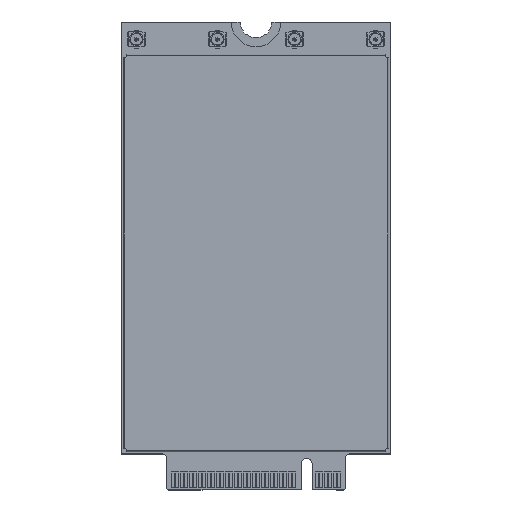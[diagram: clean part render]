
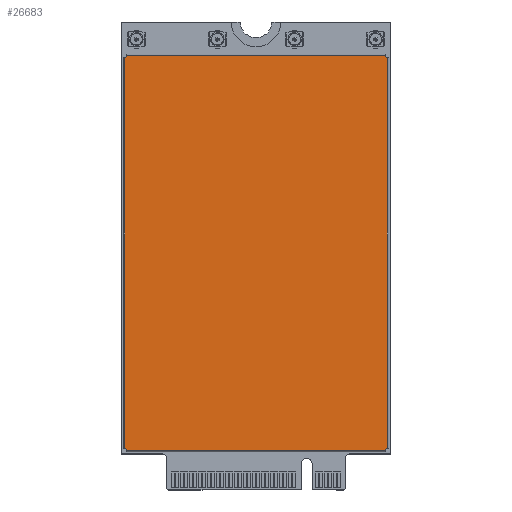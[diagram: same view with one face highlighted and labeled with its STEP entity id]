
A CAD part, top view. The second image highlights one B-rep face of the part: STEP entity #26683.
In plain terms, the highlighted planar face has unit normal (0, 0, 1) as drawn and (0, 1, 0) by its records, which use the part's own axes.
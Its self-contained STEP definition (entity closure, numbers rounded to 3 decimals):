
#24808=CARTESIAN_POINT('',(-14.59,0.,23.59));
#24809=DIRECTION('',(0.,1.,0.));
#24810=DIRECTION('',(1.,0.,0.));
#24811=AXIS2_PLACEMENT_3D('',#24808,#24809,#24810);
#24816=CARTESIAN_POINT('',(-14.59,0.,-20.24));
#24817=DIRECTION('',(0.,1.,0.));
#24818=DIRECTION('',(0.,0.,1.));
#24819=AXIS2_PLACEMENT_3D('',#24816,#24817,#24818);
#24824=CARTESIAN_POINT('',(14.59,0.,-20.24));
#24825=DIRECTION('',(0.,1.,0.));
#24826=DIRECTION('',(-1.,0.,0.));
#24827=AXIS2_PLACEMENT_3D('',#24824,#24825,#24826);
#24832=CARTESIAN_POINT('',(14.59,0.,23.59));
#24833=DIRECTION('',(0.,1.,0.));
#24834=DIRECTION('',(0.,0.,-1.));
#24835=AXIS2_PLACEMENT_3D('',#24832,#24833,#24834);
#25150=DIRECTION('',(1.,0.,0.));
#25151=VECTOR('',#25150,28.78);
#25152=CARTESIAN_POINT('',(-14.39,0.,23.59));
#25153=LINE('',#25152,#25151);
#25538=DIRECTION('',(0.,0.,-1.));
#25539=VECTOR('',#25538,43.43);
#25540=CARTESIAN_POINT('',(14.59,0.,23.39));
#25541=LINE('',#25540,#25539);
#25806=DIRECTION('',(0.,0.,1.));
#25807=VECTOR('',#25806,43.43);
#25808=CARTESIAN_POINT('',(-14.59,0.,-20.04));
#25809=LINE('',#25808,#25807);
#26029=DIRECTION('',(-1.,0.,0.));
#26030=VECTOR('',#26029,28.78);
#26031=CARTESIAN_POINT('',(14.39,0.,-20.24));
#26032=LINE('',#26031,#26030);
#26071=CARTESIAN_POINT('',(-14.59,0.,-20.04));
#26072=CARTESIAN_POINT('',(-14.39,0.,-20.24));
#26073=VERTEX_POINT('',#26071);
#26074=VERTEX_POINT('',#26072);
#26075=CARTESIAN_POINT('',(-14.39,0.,23.59));
#26076=CARTESIAN_POINT('',(-14.59,0.,23.39));
#26077=VERTEX_POINT('',#26075);
#26078=VERTEX_POINT('',#26076);
#26079=CARTESIAN_POINT('',(14.39,0.,-20.24));
#26080=VERTEX_POINT('',#26079);
#26081=CARTESIAN_POINT('',(14.59,0.,-20.04));
#26082=VERTEX_POINT('',#26081);
#26083=CARTESIAN_POINT('',(14.59,0.,23.39));
#26084=VERTEX_POINT('',#26083);
#26085=CARTESIAN_POINT('',(14.39,0.,23.59));
#26086=VERTEX_POINT('',#26085);
#26661=CARTESIAN_POINT('',(0.,0.,0.));
#26662=DIRECTION('',(0.,1.,0.));
#26663=DIRECTION('',(1.,0.,0.));
#26664=AXIS2_PLACEMENT_3D('',#26661,#26662,#26663);
#26665=PLANE('',#26664);
#26667=ORIENTED_EDGE('',*,*,#26666,.T.);
#26669=ORIENTED_EDGE('',*,*,#26668,.F.);
#26671=ORIENTED_EDGE('',*,*,#26670,.T.);
#26673=ORIENTED_EDGE('',*,*,#26672,.F.);
#26674=ORIENTED_EDGE('',*,*,#26651,.T.);
#26676=ORIENTED_EDGE('',*,*,#26675,.F.);
#26678=ORIENTED_EDGE('',*,*,#26677,.T.);
#26680=ORIENTED_EDGE('',*,*,#26679,.F.);
#26681=EDGE_LOOP('',(#26667,#26669,#26671,#26673,#26674,#26676,#26678,#26680));
#26682=FACE_OUTER_BOUND('',#26681,.F.);
#26683=ADVANCED_FACE('',(#26682),#26665,.T.);
#24812=CIRCLE('',#24811,0.2);
#24820=CIRCLE('',#24819,0.2);
#24828=CIRCLE('',#24827,0.2);
#24836=CIRCLE('',#24835,0.2);
#26651=EDGE_CURVE('',#26080,#26082,#24828,.T.);
#26666=EDGE_CURVE('',#26077,#26078,#24812,.T.);
#26668=EDGE_CURVE('',#26073,#26078,#25809,.T.);
#26670=EDGE_CURVE('',#26073,#26074,#24820,.T.);
#26672=EDGE_CURVE('',#26080,#26074,#26032,.T.);
#26675=EDGE_CURVE('',#26084,#26082,#25541,.T.);
#26677=EDGE_CURVE('',#26084,#26086,#24836,.T.);
#26679=EDGE_CURVE('',#26077,#26086,#25153,.T.);
